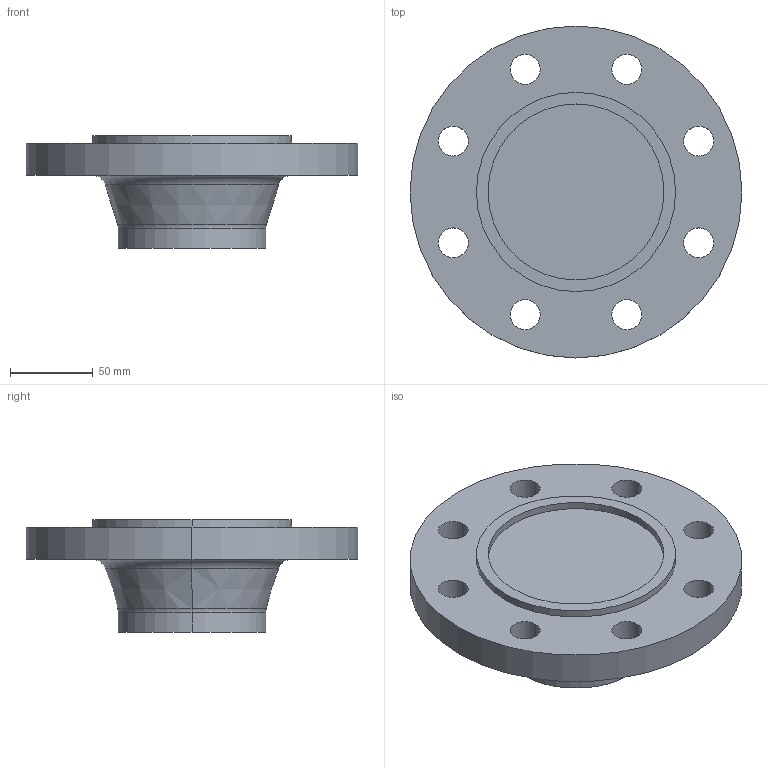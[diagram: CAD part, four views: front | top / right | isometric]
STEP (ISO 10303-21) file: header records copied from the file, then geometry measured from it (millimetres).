
FILE_DESCRIPTION (( 'STEP AP214' ), '1' );
FILE_NAME ('PN40 DN80 Type 21(ii) - Type C Face.STEP', '2019-01-01T19:30:36', ( '' ), ( '' ), 'SwSTEP 2.0', 'SolidWorks 2019', '' );
FILE_SCHEMA (( 'AUTOMOTIVE_DESIGN' ));
Length unit declared in the file: millimetre
Products named in the file (1): PN40 DN80 Type 21(ii) - Type C Face
Bounding box: 200 x 200 x 68 mm (x, y, z)
Volume: 904076.1 mm3; surface area: 93179.4 mm2
Topology: 1 solids, 1 shells, 35 faces, 84 edges, 54 vertices
Faces by surface type: cylinder 24, plane 5, torus 4, cone 2
Entity records: 1114 total; most frequent: DIRECTION 214, CARTESIAN_POINT 174, ORIENTED_EDGE 168, AXIS2_PLACEMENT_3D 94, EDGE_CURVE 84, CIRCLE 58, VERTEX_POINT 54, EDGE_LOOP 54
